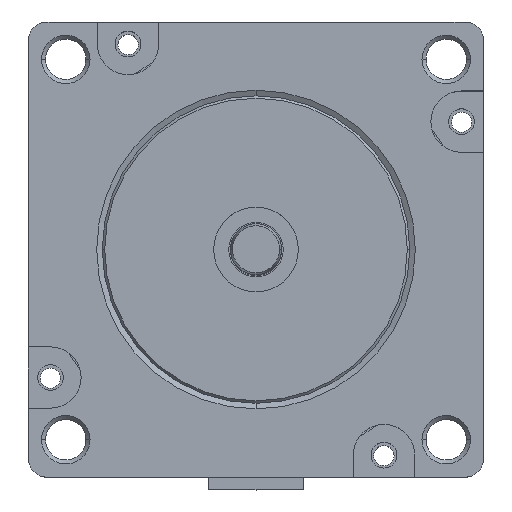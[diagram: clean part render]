
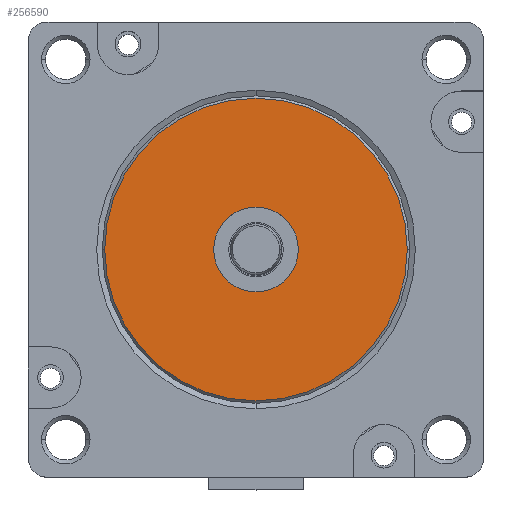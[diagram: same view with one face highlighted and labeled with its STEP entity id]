
A CAD part, top view. The second image highlights one B-rep face of the part: STEP entity #256590.
In plain terms, the highlighted planar face has unit normal (0, 0, 1).
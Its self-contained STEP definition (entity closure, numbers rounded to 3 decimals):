
#254765=CARTESIAN_POINT('',(0.,0.,55.6));
#254766=DIRECTION('',(0.,0.,-1.));
#254767=DIRECTION('',(0.,1.,0.));
#254768=AXIS2_PLACEMENT_3D('',#254765,#254766,#254767);
#254770=CARTESIAN_POINT('',(0.,0.,55.6));
#254771=DIRECTION('',(0.,0.,-1.));
#254772=DIRECTION('',(0.,-1.,0.));
#254773=AXIS2_PLACEMENT_3D('',#254770,#254771,#254772);
#254775=CARTESIAN_POINT('',(0.,0.,55.6));
#254776=DIRECTION('',(0.,0.,1.));
#254777=DIRECTION('',(1.,0.,0.));
#254778=AXIS2_PLACEMENT_3D('',#254775,#254776,#254777);
#254780=CARTESIAN_POINT('',(0.,0.,55.6));
#254781=DIRECTION('',(0.,0.,1.));
#254782=DIRECTION('',(-1.,0.,0.));
#254783=AXIS2_PLACEMENT_3D('',#254780,#254781,#254782);
#255063=CARTESIAN_POINT('',(0.,5.25,55.6));
#255064=CARTESIAN_POINT('',(0.,-5.25,55.6));
#255065=VERTEX_POINT('',#255063);
#255066=VERTEX_POINT('',#255064);
#255167=CARTESIAN_POINT('',(18.75,0.,55.6));
#255168=CARTESIAN_POINT('',(-18.75,0.,55.6));
#255169=VERTEX_POINT('',#255167);
#255170=VERTEX_POINT('',#255168);
#256574=CARTESIAN_POINT('',(0.,0.,55.6));
#256575=DIRECTION('',(0.,0.,1.));
#256576=DIRECTION('',(1.,0.,0.));
#256577=AXIS2_PLACEMENT_3D('',#256574,#256575,#256576);
#256578=PLANE('',#256577);
#256579=ORIENTED_EDGE('',*,*,#256564,.F.);
#256581=ORIENTED_EDGE('',*,*,#256580,.F.);
#256582=EDGE_LOOP('',(#256579,#256581));
#256583=FACE_OUTER_BOUND('',#256582,.F.);
#256585=ORIENTED_EDGE('',*,*,#256584,.F.);
#256587=ORIENTED_EDGE('',*,*,#256586,.F.);
#256588=EDGE_LOOP('',(#256585,#256587));
#256589=FACE_BOUND('',#256588,.F.);
#256590=ADVANCED_FACE('',(#256583,#256589),#256578,.T.);
#254769=CIRCLE('',#254768,5.25);
#254774=CIRCLE('',#254773,5.25);
#254779=CIRCLE('',#254778,18.75);
#254784=CIRCLE('',#254783,18.75);
#256564=EDGE_CURVE('',#255169,#255170,#254779,.T.);
#256580=EDGE_CURVE('',#255170,#255169,#254784,.T.);
#256584=EDGE_CURVE('',#255065,#255066,#254769,.T.);
#256586=EDGE_CURVE('',#255066,#255065,#254774,.T.);
